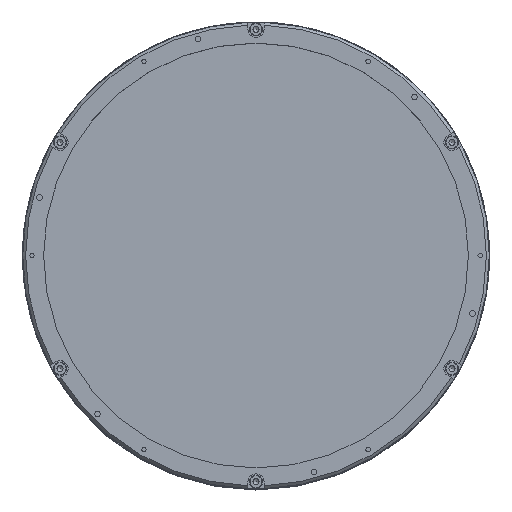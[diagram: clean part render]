
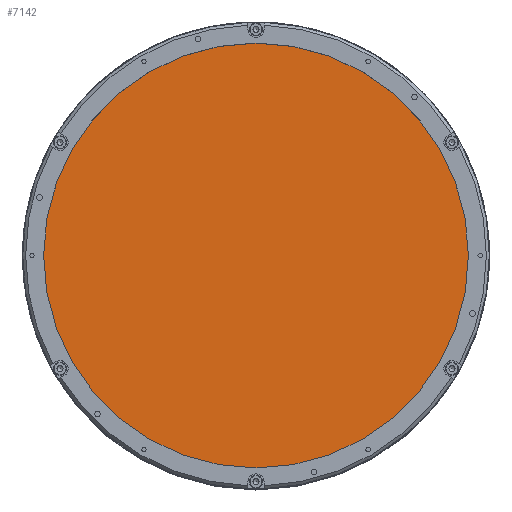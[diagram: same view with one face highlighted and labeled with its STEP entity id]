
A CAD part, top view. The second image highlights one B-rep face of the part: STEP entity #7142.
In plain terms, the highlighted planar face has unit normal (0, 0, 1).
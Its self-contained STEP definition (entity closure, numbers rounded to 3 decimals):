
#3163 = PLANE ( 'NONE',  #7989 ) ;
#5593 = CIRCLE ( 'NONE', #8824, 72.75 ) ;
#5691 = EDGE_LOOP ( 'NONE', ( #14064 ) ) ;
#6402 = EDGE_CURVE ( 'NONE', #12232, #12232, #5593, .T. ) ;
#7142 = ADVANCED_FACE ( 'NONE', ( #18369 ), #3163, .T. ) ;
#7989 = AXIS2_PLACEMENT_3D ( 'NONE', #8639, #22578, #13927 ) ;
#8639 = CARTESIAN_POINT ( 'NONE',  ( 0., 0., 159.7 ) ) ;
#8824 = AXIS2_PLACEMENT_3D ( 'NONE', #14504, #20305, #17699 ) ;
#9992 = CARTESIAN_POINT ( 'NONE',  ( 72.75, 0., 159.7 ) ) ;
#12232 = VERTEX_POINT ( 'NONE', #9992 ) ;
#13927 = DIRECTION ( 'NONE',  ( 1., 0., 0. ) ) ;
#14064 = ORIENTED_EDGE ( 'NONE', *, *, #6402, .T. ) ;
#14504 = CARTESIAN_POINT ( 'NONE',  ( 0., 0., 159.7 ) ) ;
#17699 = DIRECTION ( 'NONE',  ( 1., 0., 0. ) ) ;
#18369 = FACE_OUTER_BOUND ( 'NONE', #5691, .T. ) ;
#20305 = DIRECTION ( 'NONE',  ( 0., 0., 1. ) ) ;
#22578 = DIRECTION ( 'NONE',  ( 0., 0., 1. ) ) ;
